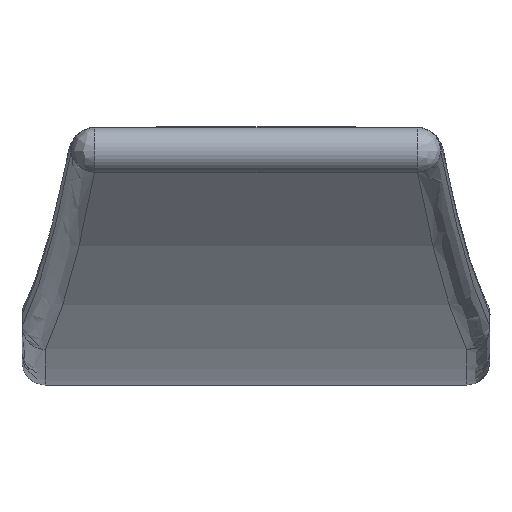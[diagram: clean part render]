
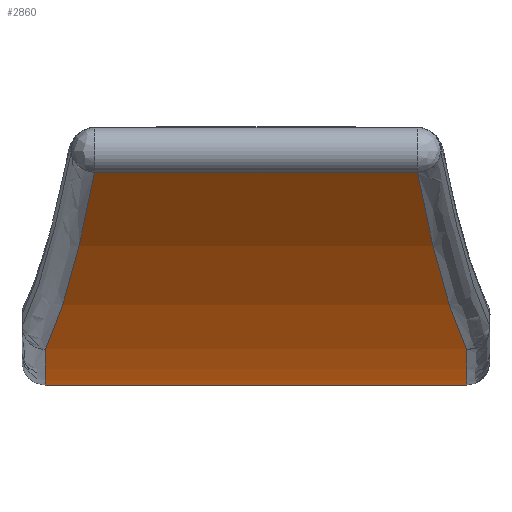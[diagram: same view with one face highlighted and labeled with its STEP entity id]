
A CAD part, left-side view. The second image highlights one B-rep face of the part: STEP entity #2860.
In plain terms, the highlighted cylindrical face has radius 200 mm (diameter 400 mm), a partial arc.
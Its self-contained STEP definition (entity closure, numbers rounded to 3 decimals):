
#52 = CARTESIAN_POINT ( 'NONE',  ( -48.641, -17.23, 4.773 ) ) ;
#192 = DIRECTION ( 'NONE',  ( 0., 1., 0. ) ) ;
#200 = VECTOR ( 'NONE', #1805, 1000. ) ;
#210 = CARTESIAN_POINT ( 'NONE',  ( -5., -18., 0. ) ) ;
#235 = VECTOR ( 'NONE', #6043, 1000. ) ;
#327 = CARTESIAN_POINT ( 'NONE',  ( -64.314, -15.872, 8.998 ) ) ;
#366 = CARTESIAN_POINT ( 'NONE',  ( -64.524, 15.854, 9.063 ) ) ;
#543 = CARTESIAN_POINT ( 'NONE',  ( -59.781, -16.265, 7.646 ) ) ;
#590 = DIRECTION ( 'NONE',  ( 0., -1., 0. ) ) ;
#596 = CIRCLE ( 'NONE', #3827, 200. ) ;
#670 = CARTESIAN_POINT ( 'NONE',  ( -39.747, -18., 3.041 ) ) ;
#686 = B_SPLINE_CURVE_WITH_KNOTS ( 'NONE', 3,
 ( #670, #4260, #52, #1008, #2882, #543, #2425, #1967, #2617, #3608, #4074, #327, #1661, #2670, #4936, #733, #2216, #5354, #761, #4415 ),
 .UNSPECIFIED., .F., .F.,
 ( 4, 2, 2, 2, 1, 1, 1, 1, 1, 1, 2, 2, 4 ),
 ( 0., 0.25, 0.375, 0.438, 0.469, 0.484, 0.492, 0.496, 0.498, 0.499, 0.5, 0.5, 1. ),
 .UNSPECIFIED. ) ;
#733 = CARTESIAN_POINT ( 'NONE',  ( -64.502, -15.856, 9.056 ) ) ;
#740 = CARTESIAN_POINT ( 'NONE',  ( -66.382, 15.693, 9.651 ) ) ;
#761 = CARTESIAN_POINT ( 'NONE',  ( -81.019, -14.425, 14.836 ) ) ;
#830 = CARTESIAN_POINT ( 'NONE',  ( -64.634, 15.844, 9.097 ) ) ;
#848 = LINE ( 'NONE', #5995, #200 ) ;
#964 = CARTESIAN_POINT ( 'NONE',  ( -5., 18., 200. ) ) ;
#1008 = CARTESIAN_POINT ( 'NONE',  ( -54.834, -16.693, 6.296 ) ) ;
#1048 = CARTESIAN_POINT ( 'NONE',  ( -88.32, 13.793, 18.182 ) ) ;
#1077 = CARTESIAN_POINT ( 'NONE',  ( -84.669, 14.109, 16.509 ) ) ;
#1155 = FACE_OUTER_BOUND ( 'NONE', #4143, .T. ) ;
#1438 = EDGE_CURVE ( 'NONE', #3153, #1483, #5899, .T. ) ;
#1483 = VERTEX_POINT ( 'NONE', #5854 ) ;
#1564 = VERTEX_POINT ( 'NONE', #2395 ) ;
#1661 = CARTESIAN_POINT ( 'NONE',  ( -64.415, -15.863, 9.029 ) ) ;
#1668 = CARTESIAN_POINT ( 'NONE',  ( -64.533, 15.853, 9.066 ) ) ;
#1759 = CARTESIAN_POINT ( 'NONE',  ( -65.451, 15.774, 9.354 ) ) ;
#1805 = DIRECTION ( 'NONE',  ( 0., -1., 0. ) ) ;
#1967 = CARTESIAN_POINT ( 'NONE',  ( -62.175, -16.057, 8.346 ) ) ;
#1972 = CARTESIAN_POINT ( 'NONE',  ( -88.32, -20., 18.182 ) ) ;
#2141 = CARTESIAN_POINT ( 'NONE',  ( -5., -18., 200. ) ) ;
#2161 = CARTESIAN_POINT ( 'NONE',  ( -64.984, 15.814, 9.207 ) ) ;
#2216 = CARTESIAN_POINT ( 'NONE',  ( -64.508, -15.855, 9.058 ) ) ;
#2250 = CARTESIAN_POINT ( 'NONE',  ( -44.3, 17.606, 3.845 ) ) ;
#2341 = ORIENTED_EDGE ( 'NONE', *, *, #1438, .T. ) ;
#2351 = DIRECTION ( 'NONE',  ( 0., 0., 1. ) ) ;
#2395 = CARTESIAN_POINT ( 'NONE',  ( -39.747, -18., 3.041 ) ) ;
#2423 = CYLINDRICAL_SURFACE ( 'NONE', #4146, 200. ) ;
#2425 = CARTESIAN_POINT ( 'NONE',  ( -60.747, -16.181, 7.924 ) ) ;
#2617 = CARTESIAN_POINT ( 'NONE',  ( -62.885, -15.996, 8.559 ) ) ;
#2622 = CARTESIAN_POINT ( 'NONE',  ( -60.813, 16.175, 7.906 ) ) ;
#2670 = CARTESIAN_POINT ( 'NONE',  ( -64.466, -15.859, 9.045 ) ) ;
#2679 = CARTESIAN_POINT ( 'NONE',  ( -56.898, 16.515, 6.804 ) ) ;
#2860 = ADVANCED_FACE ( 'NONE', ( #1155 ), #2423, .T. ) ;
#2882 = CARTESIAN_POINT ( 'NONE',  ( -56.844, -16.519, 6.826 ) ) ;
#2953 = CARTESIAN_POINT ( 'NONE',  ( -88.32, 13.793, 18.182 ) ) ;
#3153 = VERTEX_POINT ( 'NONE', #2953 ) ;
#3166 = CARTESIAN_POINT ( 'NONE',  ( -64.575, 15.85, 9.079 ) ) ;
#3226 = EDGE_CURVE ( 'NONE', #3361, #1564, #5708, .T. ) ;
#3361 = VERTEX_POINT ( 'NONE', #210 ) ;
#3442 = CARTESIAN_POINT ( 'NONE',  ( -69.792, 15.398, 10.783 ) ) ;
#3473 = AXIS2_PLACEMENT_3D ( 'NONE', #2141, #4520, #4116 ) ;
#3564 = EDGE_CURVE ( 'NONE', #1564, #5812, #686, .T. ) ;
#3608 = CARTESIAN_POINT ( 'NONE',  ( -63.703, -15.925, 8.809 ) ) ;
#3646 = CARTESIAN_POINT ( 'NONE',  ( -64.751, 15.834, 9.134 ) ) ;
#3784 = CARTESIAN_POINT ( 'NONE',  ( -88.32, -13.793, 18.182 ) ) ;
#3827 = AXIS2_PLACEMENT_3D ( 'NONE', #964, #590, #2351 ) ;
#3899 = CARTESIAN_POINT ( 'NONE',  ( -74.91, 14.954, 12.604 ) ) ;
#3992 = ORIENTED_EDGE ( 'NONE', *, *, #3226, .T. ) ;
#4003 = DIRECTION ( 'NONE',  ( 0., 0., 1. ) ) ;
#4074 = CARTESIAN_POINT ( 'NONE',  ( -64.111, -15.89, 8.935 ) ) ;
#4116 = DIRECTION ( 'NONE',  ( 0., 0., 1. ) ) ;
#4128 = EDGE_CURVE ( 'NONE', #5812, #3153, #4637, .T. ) ;
#4143 = EDGE_LOOP ( 'NONE', ( #2341, #4767, #4789, #3992, #5874, #5565 ) ) ;
#4146 = AXIS2_PLACEMENT_3D ( 'NONE', #5172, #192, #4003 ) ;
#4260 = CARTESIAN_POINT ( 'NONE',  ( -44.3, -17.606, 3.845 ) ) ;
#4327 = CARTESIAN_POINT ( 'NONE',  ( -80.861, 14.439, 14.897 ) ) ;
#4415 = CARTESIAN_POINT ( 'NONE',  ( -88.32, -13.793, 18.182 ) ) ;
#4457 = CARTESIAN_POINT ( 'NONE',  ( -64.55, 15.852, 9.071 ) ) ;
#4513 = CARTESIAN_POINT ( 'NONE',  ( -39.747, 18., 3.041 ) ) ;
#4520 = DIRECTION ( 'NONE',  ( 0., 1., 0. ) ) ;
#4637 = LINE ( 'NONE', #1972, #235 ) ;
#4767 = ORIENTED_EDGE ( 'NONE', *, *, #5852, .T. ) ;
#4789 = ORIENTED_EDGE ( 'NONE', *, *, #5768, .T. ) ;
#4936 = CARTESIAN_POINT ( 'NONE',  ( -64.488, -15.857, 9.052 ) ) ;
#4973 = CARTESIAN_POINT ( 'NONE',  ( -48.641, 17.23, 4.773 ) ) ;
#5172 = CARTESIAN_POINT ( 'NONE',  ( -5., -20., 200. ) ) ;
#5298 = CARTESIAN_POINT ( 'NONE',  ( -68.23, 15.533, 10.253 ) ) ;
#5354 = CARTESIAN_POINT ( 'NONE',  ( -73.084, -15.112, 11.731 ) ) ;
#5436 = CARTESIAN_POINT ( 'NONE',  ( -5., 18., 0. ) ) ;
#5565 = ORIENTED_EDGE ( 'NONE', *, *, #4128, .T. ) ;
#5707 = VERTEX_POINT ( 'NONE', #5436 ) ;
#5708 = CIRCLE ( 'NONE', #3473, 200. ) ;
#5763 = CARTESIAN_POINT ( 'NONE',  ( -72.887, 15.13, 11.861 ) ) ;
#5768 = EDGE_CURVE ( 'NONE', #5707, #3361, #848, .T. ) ;
#5812 = VERTEX_POINT ( 'NONE', #3784 ) ;
#5852 = EDGE_CURVE ( 'NONE', #1483, #5707, #596, .T. ) ;
#5854 = CARTESIAN_POINT ( 'NONE',  ( -39.747, 18., 3.041 ) ) ;
#5874 = ORIENTED_EDGE ( 'NONE', *, *, #3564, .T. ) ;
#5899 = B_SPLINE_CURVE_WITH_KNOTS ( 'NONE', 3,
 ( #1048, #1077, #4327, #3899, #5763, #3442, #5298, #740, #1759, #2161, #3646, #830, #3166, #4457, #1668, #366, #2622, #2679, #4973, #2250, #4513 ),
 .UNSPECIFIED., .F., .F.,
 ( 4, 2, 2, 1, 1, 1, 1, 1, 1, 1, 2, 2, 2, 4 ),
 ( 0., 0.25, 0.375, 0.437, 0.469, 0.484, 0.492, 0.496, 0.498, 0.499, 0.5, 0.5, 0.75, 1. ),
 .UNSPECIFIED. ) ;
#5995 = CARTESIAN_POINT ( 'NONE',  ( -5., -20., 0. ) ) ;
#6043 = DIRECTION ( 'NONE',  ( 0., 1., 0. ) ) ;
